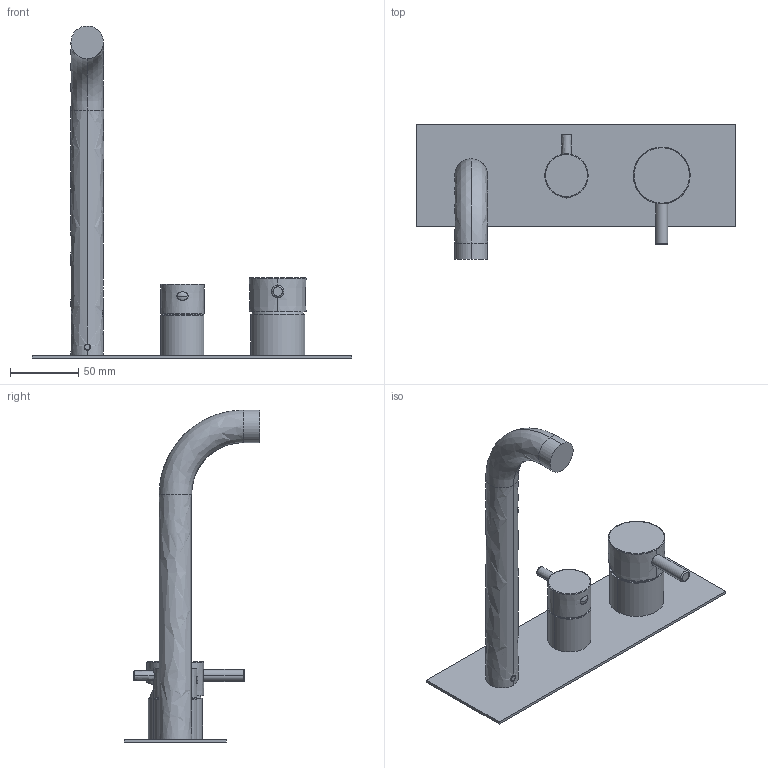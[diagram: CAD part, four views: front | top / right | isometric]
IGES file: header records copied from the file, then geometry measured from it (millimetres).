
Start section:  PTC IGES file: 12528av3.igs
Global section: file name: 12528av3.igs; native system: Creo Parametric by PTC Inc.; preprocessor: 2022014; author: carloff; organization: Unknown; date: 20250226.162030; units: millimetre
Bounding box: 235 x 99.5 x 244 mm (x, y, z)
Surface area: 78877.5 mm2 (no closed solid volume)
Topology: 0 solids, 0 shells, 193 faces, 978 edges, 972 vertices
Faces by surface type: bspline 100, revolution 93
